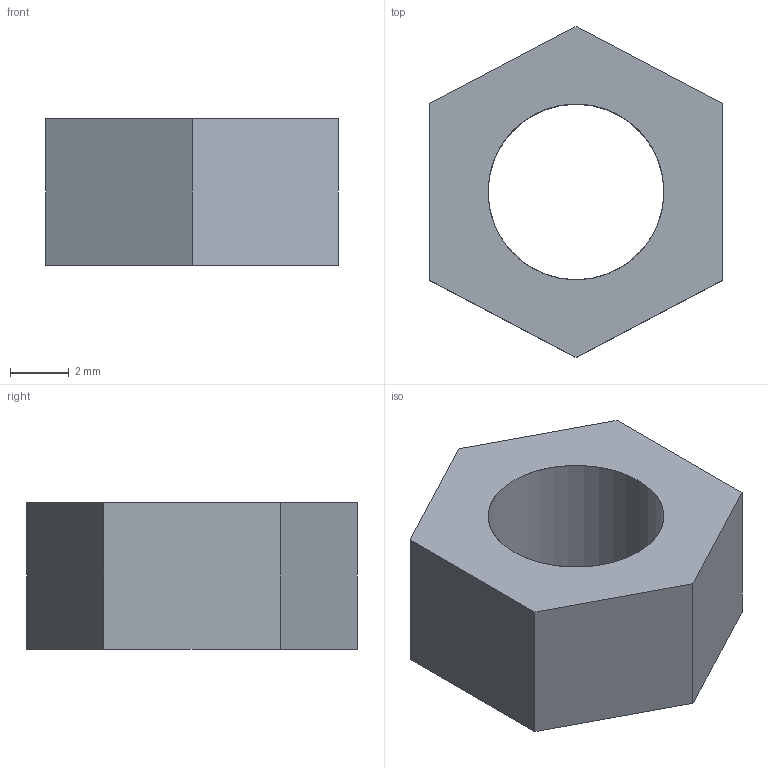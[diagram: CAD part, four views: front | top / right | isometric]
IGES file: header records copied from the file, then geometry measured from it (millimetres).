
Start section: SolidWorks IGES FILE using analytic representation for surfaces
Global section: file name: C:\Documents and Settings\lecoutey\Bureau\GR 57 E\55.100.10.IGS; native system: SolidWorks 2004 by SolidWorks Corporation; preprocessor: Version 5.3; author: lecoutey; date: 050330.132822; units: millimetre
Bounding box: 10 x 11.3 x 5 mm (x, y, z)
Surface area: 384.5 mm2 (no closed solid volume)
Topology: 0 solids, 0 shells, 10 faces, 108 edges, 108 vertices
Faces by surface type: bspline 8, revolution 2
